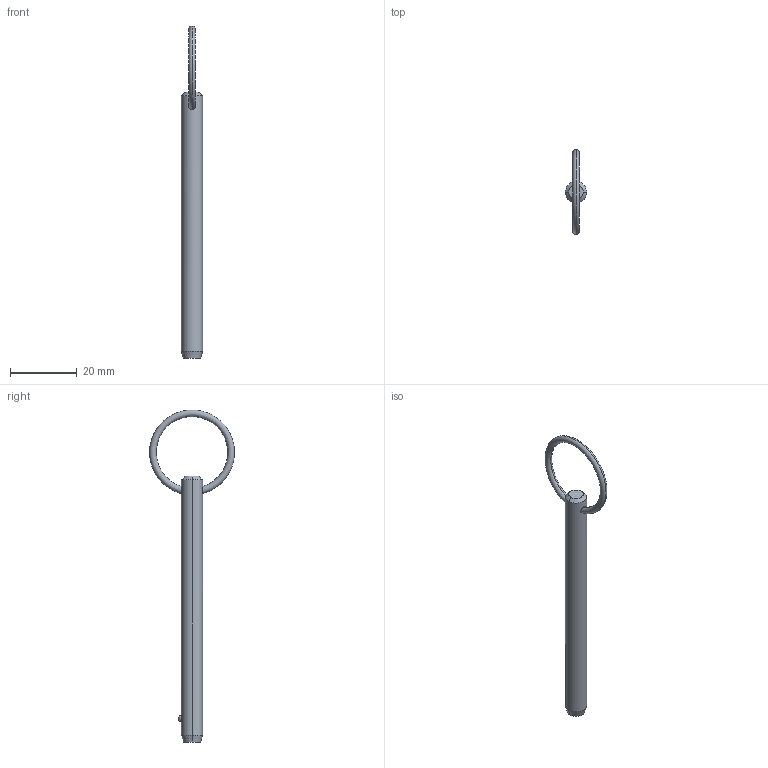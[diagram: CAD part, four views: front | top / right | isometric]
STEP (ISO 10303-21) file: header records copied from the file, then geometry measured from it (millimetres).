
FILE_DESCRIPTION (( 'STEP AP203' ), '1' );
FILE_NAME ('P1250.025-260.step', '2019-07-29T19:43:31', ( '' ), ( '' ), 'SwSTEP 2.0', 'SolidWorks 2017', '' );
FILE_SCHEMA (( 'CONFIG_CONTROL_DESIGN' ));
Length unit declared in the file: millimetre
Products named in the file (1): P1250.025-260
Bounding box: 6.35 x 25.38 x 99.32 mm (x, y, z)
Volume: 2711.4 mm3; surface area: 2043.3 mm2
Topology: 1 solids, 1 shells, 12 faces, 28 edges, 17 vertices
Faces by surface type: cone 4, torus 2, sphere 2, cylinder 2, plane 2
Entity records: 481 total; most frequent: CARTESIAN_POINT 148, DIRECTION 56, ORIENTED_EDGE 48, AXIS2_PLACEMENT_3D 25, EDGE_CURVE 24, VERTEX_POINT 15, EDGE_LOOP 15, CIRCLE 12
